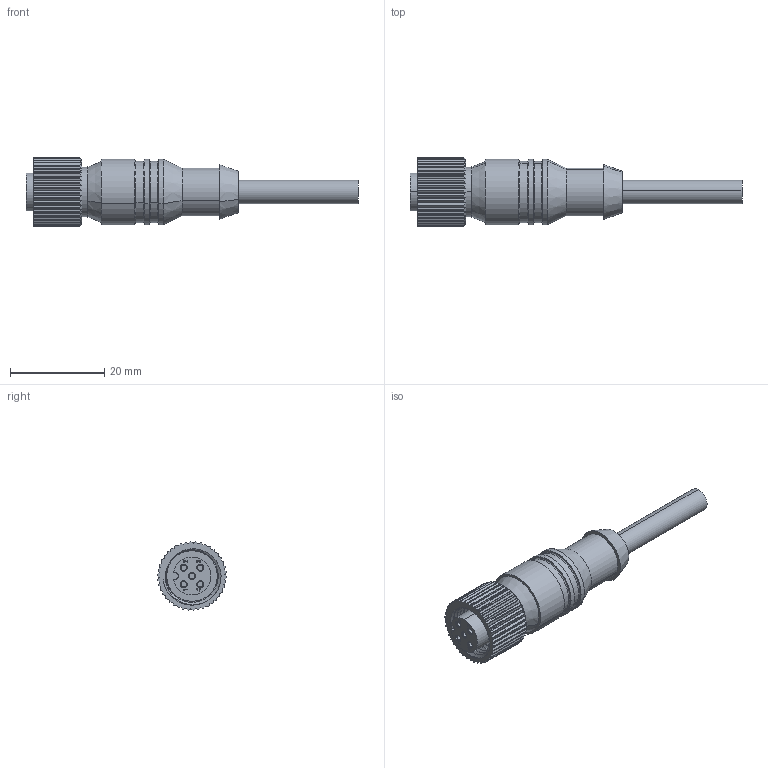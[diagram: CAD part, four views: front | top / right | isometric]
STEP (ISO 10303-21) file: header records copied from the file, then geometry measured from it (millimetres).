
FILE_DESCRIPTION (( 'STEP AP214' ), '1' );
FILE_NAME ('MDC-4FP-ZZ.STEP', '2013-09-19T20:44:35', ( 'Bruce Laptop' ), ( 'HP' ), 'SwSTEP 2.0', 'SolidWorks 2013', '' );
FILE_SCHEMA (( 'AUTOMOTIVE_DESIGN' ));
Length unit declared in the file: millimetre
Products named in the file (1): MDC-4FP-ZZ
Bounding box: 70.56 x 14.65 x 14.64 mm (x, y, z)
Volume: 5573.1 mm3; surface area: 3424.7 mm2
Topology: 1 solids, 2 shells, 432 faces, 1193 edges, 791 vertices
Faces by surface type: cylinder 245, plane 146, bspline 23, cone 10, torus 8
Entity records: 21818 total; most frequent: CARTESIAN_POINT 6423, ORIENTED_EDGE 2386, DIRECTION 2061, EDGE_CURVE 1193, VERTEX_POINT 791, AXIS2_PLACEMENT_3D 763, VECTOR 535, LINE 535
